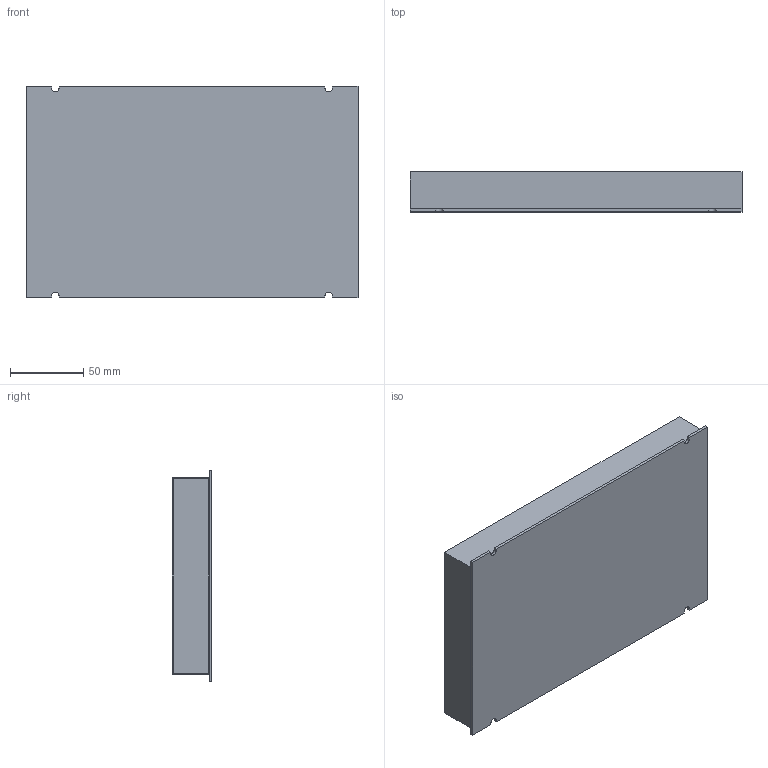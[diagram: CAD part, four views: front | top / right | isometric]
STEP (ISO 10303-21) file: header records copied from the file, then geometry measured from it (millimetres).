
FILE_DESCRIPTION (( 'STEP AP203' ), '1' );
FILE_NAME ('力为控制技术-3D模型-《PMC206B》.STEP', '2024-12-30T02:18:28', ( '' ), ( '' ), 'SwSTEP 2.0', 'SolidWorks 2020', '' );
FILE_SCHEMA (( 'CONFIG_CONTROL_DESIGN' ));
Length unit declared in the file: millimetre
Products named in the file (1): 力为控制技术-3D模型-《PMC206B》
Bounding box: 226 x 27.2 x 144 mm (x, y, z)
Volume: 101534 mm3; surface area: 155558.6 mm2
Topology: 10 solids, 10 shells, 201 faces, 540 edges, 360 vertices
Faces by surface type: plane 123, cylinder 78
Entity records: 6461 total; most frequent: CARTESIAN_POINT 1102, DIRECTION 1100, ORIENTED_EDGE 1080, EDGE_CURVE 540, LINE 384, VECTOR 384, VERTEX_POINT 360, AXIS2_PLACEMENT_3D 358
